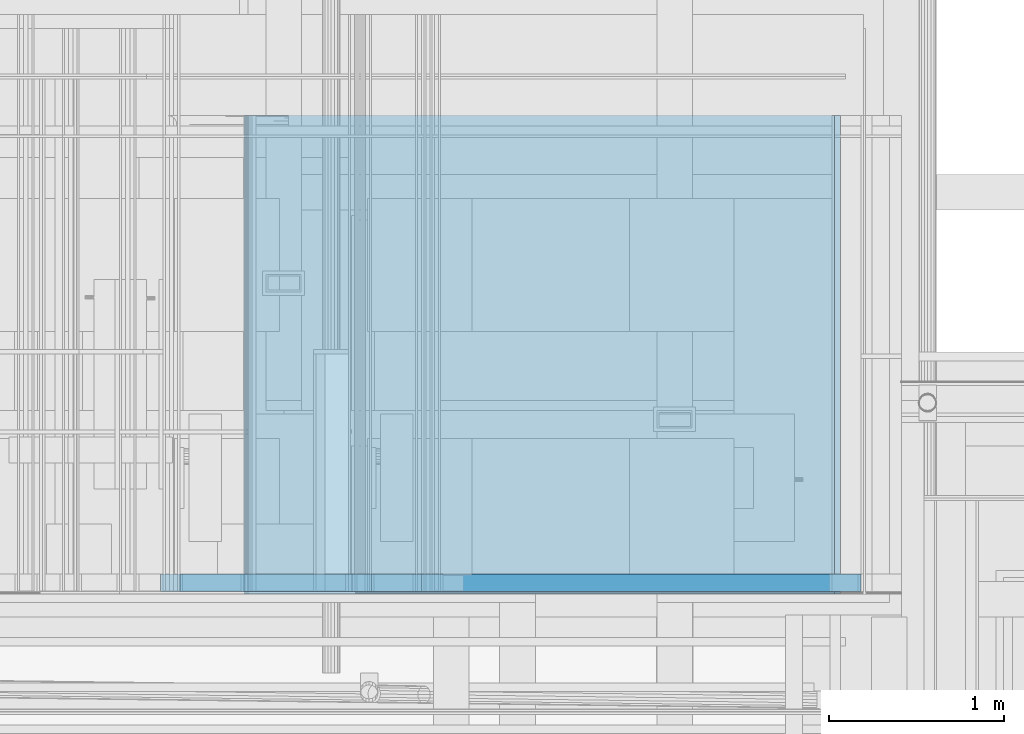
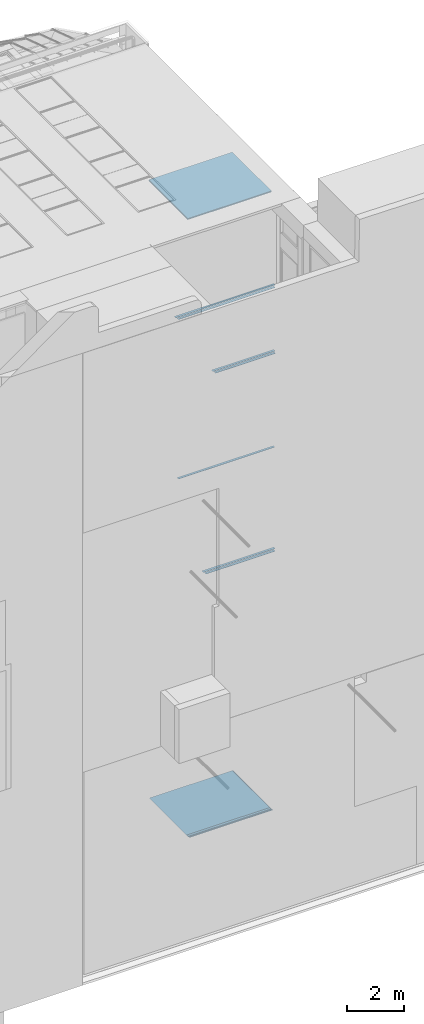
# One storey, part 53 of 583: 13 building element parts, 6 elements without a shape of their own.
"""IFC2X3 building model written with IfcOpenShell, lengths in metres."""

import ifcopenshell
import ifcopenshell.guid

model = None  # the IFC model being written
_history = None  # IfcOwnerHistory: only IFC2X3 demands one
_inside = {}  # id of a spatial element -> (the spatial element, [elements in it])
_under = {}  # id of a project, library or spatial element -> (it, [spatial elements below it])
_declared = {}  # id of a project -> (the project, [libraries it declares])
_typed = {}  # id of a type object -> (the type object, [elements of that type])
_made_of = {}  # id of a material, layer set ... -> (it, [elements and type objects made of it])


def new_model(schema):
    """Start an empty IFC model of exactly this schema.

    Asked for "IFC4X3", IfcOpenShell would pick the latest addendum, in which some entities
    have other attributes; the version numbers below select the first issue.
    IFC2X3 requires an IfcOwnerHistory on every rooted entity: one is made here for all.
    """
    global model, _history
    if schema == "IFC4X3":
        model = ifcopenshell.file(schema_version=(4, 3, 0, 0))
    else:
        model = ifcopenshell.file(schema=schema)
    _inside.clear()
    _under.clear()
    _declared.clear()
    _typed.clear()
    _made_of.clear()
    _history = None
    if model.schema == "IFC2X3":
        org = make("IfcOrganization", Name="unknown")
        user = make(
            "IfcPersonAndOrganization",
            ThePerson=make("IfcPerson", FamilyName="unknown"),
            TheOrganization=org,
        )
        app = make(
            "IfcApplication",
            ApplicationDeveloper=org,
            Version="unknown",
            ApplicationFullName="unknown",
            ApplicationIdentifier="unknown",
        )
        _history = make(
            "IfcOwnerHistory",
            OwningUser=user,
            OwningApplication=app,
            ChangeAction="ADDED",
            CreationDate=0,
        )
    return model


def make(cls, **values):
    """One entity of the class cls with the attributes given. An attribute that is None is left unset."""
    return model.create_entity(
        cls, **{name: value for name, value in values.items() if value is not None}
    )


def entity(cls, *values):
    """Any entity or typed value of the class cls, its attributes in the order of the schema. None: left unset."""
    e = model.create_entity(cls)
    for i, value in enumerate(values):
        if value is not None:
            e[i] = value
    return e


def rooted(cls, **values):
    """An entity with a GlobalId (a new one), such as an element, a storey or a relation."""
    return make(cls, GlobalId=ifcopenshell.guid.new(), OwnerHistory=_history, **values)


def si_unit(unit_type, name, prefix=None):
    """IfcSIUnit, for example si_unit("LENGTHUNIT", "METRE", prefix="MILLI")."""
    return make("IfcSIUnit", UnitType=unit_type, Prefix=prefix, Name=name)


def converted_unit(unit_type, name, factor, base, dimensions=None, offset=None):
    """IfcConversionBasedUnit, such as the inch: factor (a typed value) times the base unit."""
    return make(
        "IfcConversionBasedUnit"
        if offset is None
        else "IfcConversionBasedUnitWithOffset",
        ConversionOffset=offset,
        Dimensions=None
        if dimensions is None
        else entity("IfcDimensionalExponents", *dimensions),
        UnitType=unit_type,
        Name=name,
        ConversionFactor=make(
            "IfcMeasureWithUnit", ValueComponent=factor, UnitComponent=base
        ),
    )


def derived_unit(unit_type, elements):
    """IfcDerivedUnit: a product of units, each with its exponent."""
    return make(
        "IfcDerivedUnit",
        Elements=[
            make("IfcDerivedUnitElement", Unit=unit, Exponent=power)
            for unit, power in elements
        ],
        UnitType=unit_type,
    )


def money_unit(currency):
    """IfcMonetaryUnit."""
    return make("IfcMonetaryUnit", Currency=currency)


def assignment(units):
    """IfcUnitAssignment: the units of a project."""
    return None if units is None else make("IfcUnitAssignment", Units=units)


def point(xyz):
    """IfcCartesianPoint."""
    return None if xyz is None else make("IfcCartesianPoint", Coordinates=xyz)


def direction(xyz):
    """IfcDirection."""
    return None if xyz is None else make("IfcDirection", DirectionRatios=xyz)


def frame(location, z_axis=None, x_axis=None):
    """IfcAxis2Placement3D, a coordinate frame: its origin and axes. An axis left out is left unset."""
    return make(
        "IfcAxis2Placement3D",
        Location=point(location),
        Axis=direction(z_axis),
        RefDirection=direction(x_axis),
    )


def frame_2d(location, x_axis=None):
    """IfcAxis2Placement2D, a coordinate frame in the plane: its origin and x axis."""
    return make(
        "IfcAxis2Placement2D", Location=point(location), RefDirection=direction(x_axis)
    )


def origin_with_axes():
    """The frame at (0, 0, 0) with the z axis (0, 0, 1) and the x axis (1, 0, 0) written out."""
    return frame((0.0, 0.0, 0.0), z_axis=(0.0, 0.0, 1.0), x_axis=(1.0, 0.0, 0.0))


def place(relative_to, where):
    """IfcLocalPlacement: puts the frame where relative to a parent placement (None: the world)."""
    return make(
        "IfcLocalPlacement", PlacementRelTo=relative_to, RelativePlacement=where
    )


def context(
    kind, dimensions, precision=None, world=None, true_north=None, identifier=None
):
    """IfcGeometricRepresentationContext, for example the 3D "Model" context."""
    return make(
        "IfcGeometricRepresentationContext",
        ContextIdentifier=identifier,
        ContextType=kind,
        CoordinateSpaceDimension=dimensions,
        Precision=precision,
        WorldCoordinateSystem=world,
        TrueNorth=true_north,
    )


def subcontext(parent, identifier, kind, view, scale=None):
    """IfcGeometricRepresentationSubContext, for example "Body" below "Model"."""
    return make(
        "IfcGeometricRepresentationSubContext",
        ContextIdentifier=identifier,
        ContextType=kind,
        ParentContext=parent,
        TargetScale=scale,
        TargetView=view,
    )


def project(units=None, contexts=None):
    """IfcProject with its units and contexts."""
    return rooted(
        "IfcProject",
        Name="project",
        RepresentationContexts=contexts,
        UnitsInContext=assignment(units),
    )


def spatial(cls, under=None, at=None, **own):
    """A site, building, storey or space (cls), placed at a placement, below another one or the project."""
    s = rooted(cls, ObjectPlacement=at, **own)
    if under is not None:
        _under.setdefault(under.id(), (under, []))[1].append(s)
    return s


def polyline(points):
    """IfcPolyline through the points."""
    return make("IfcPolyline", Points=[point(p) for p in points])


def profile(cls, at=None, kind="AREA", **sizes):
    """A parametric profile (cls). Its sizes go by their IFC names, for example OverallWidth=200.0."""
    return make(cls, ProfileType=kind, Position=at, **sizes)


def rectangle(**sizes):
    """IfcRectangleProfileDef."""
    return profile("IfcRectangleProfileDef", **sizes)


def outline(outer, holes=None, kind="AREA"):
    """IfcArbitraryClosedProfileDef: a profile drawn as a closed curve; with holes, ...WithVoids."""
    if holes is None:
        return make("IfcArbitraryClosedProfileDef", ProfileType=kind, OuterCurve=outer)
    return make(
        "IfcArbitraryProfileDefWithVoids",
        ProfileType=kind,
        OuterCurve=outer,
        InnerCurves=holes,
    )


def extrude(swept, where, along, depth):
    """IfcExtrudedAreaSolid: the profile swept, set in the frame where, extruded along a direction by depth."""
    return make(
        "IfcExtrudedAreaSolid",
        SweptArea=swept,
        Position=where,
        ExtrudedDirection=direction(along),
        Depth=depth,
    )


def shape(context_of_items, identifier, shape_type, items):
    """IfcShapeRepresentation: the items that make up one representation, for example the "Body"."""
    return make(
        "IfcShapeRepresentation",
        ContextOfItems=context_of_items,
        RepresentationIdentifier=identifier,
        RepresentationType=shape_type,
        Items=items,
    )


def material(Name=None, Category=None):
    """IfcMaterial."""
    return make("IfcMaterial", Name=Name, Category=Category)


def made_of(thing, what):
    """Note that an element or type object is made of a material, layer set ...; save() writes the relation."""
    if what is not None:
        _made_of.setdefault(what.id(), (what, []))[1].append(thing)
    return thing


def type_object(cls, material=None, **own):
    """A type object (cls), such as IfcWallType, which elements share."""
    return made_of(rooted(cls, **own), material)


def element(
    cls,
    number,
    at=None,
    inside=None,
    cuts=None,
    type_object=None,
    material=None,
    context=None,
    identifier="Body",
    shape_type=None,
    held_by="IfcProductDefinitionShape",
    body=None,
    shapes=None,
    **own,
):
    """One element of the class cls, such as IfcWall. Its Tag is "e" and its number.

    at: its placement. inside: the storey or other place that contains it. cuts: it is an
    opening in that element (IfcRelVoidsElement). A single representation is given by context,
    identifier, shape_type and body (its items); several are given by shapes. held_by: the class
    of the entity that holds the representations. save() writes the other relations.
    """
    e = rooted(cls, Tag="e%d" % number, ObjectPlacement=at, **own)
    if body is not None:
        shapes = [shape(context, identifier, shape_type, body)]
    if shapes is not None:
        e.Representation = make(held_by, Representations=shapes)
    if inside is not None:
        _inside.setdefault(inside.id(), (inside, []))[1].append(e)
    if cuts is not None:
        rooted(
            "IfcRelVoidsElement", RelatingBuildingElement=cuts, RelatedOpeningElement=e
        )
    if type_object is not None:
        _typed.setdefault(type_object.id(), (type_object, []))[1].append(e)
    return made_of(e, material)


def aggregate(whole, parts):
    """IfcRelAggregates: a whole, such as a stair, and the parts it consists of."""
    return rooted("IfcRelAggregates", RelatingObject=whole, RelatedObjects=parts)


def save(model, path):
    """Write the relations noted so far, then the file.

    IfcRelAggregates (storeys below a building ...), IfcRelContainedInSpatialStructure (elements
    in a storey), IfcRelDefinesByType, IfcRelAssociatesMaterial and IfcRelDeclares: one each for
    every whole, place, type object, material and project.
    """
    for whole, parts in _under.values():
        aggregate(whole, parts)
    for where, things in _inside.values():
        rooted(
            "IfcRelContainedInSpatialStructure",
            RelatedElements=things,
            RelatingStructure=where,
        )
    for kind, things in _typed.values():
        rooted("IfcRelDefinesByType", RelatedObjects=things, RelatingType=kind)
    for what, things in _made_of.values():
        rooted("IfcRelAssociatesMaterial", RelatedObjects=things, RelatingMaterial=what)
    for by, libraries in _declared.values():
        rooted("IfcRelDeclares", RelatingContext=by, RelatedDefinitions=libraries)
    model.write(path)


model = new_model("IFC2X3")

# Units and contexts
model_context = context("Model", 3, precision=1e-05, world=origin_with_axes(), true_north=direction((0.0, 1.0)))
body_context = subcontext(model_context, "Body", "Model", "MODEL_VIEW", scale=1.0)
ifc_project = project(units=[si_unit("LENGTHUNIT", "METRE"), si_unit("AREAUNIT", "SQUARE_METRE"), si_unit("VOLUMEUNIT", "CUBIC_METRE"), si_unit("ABSORBEDDOSEUNIT", "GRAY"), si_unit("AMOUNTOFSUBSTANCEUNIT", "MOLE"), si_unit("DOSEEQUIVALENTUNIT", "SIEVERT"), si_unit("ELECTRICCAPACITANCEUNIT", "FARAD"), si_unit("ELECTRICCHARGEUNIT", "COULOMB"), si_unit("ELECTRICCONDUCTANCEUNIT", "SIEMENS"), si_unit("ELECTRICCURRENTUNIT", "AMPERE"), si_unit("ELECTRICRESISTANCEUNIT", "OHM"), si_unit("ELECTRICVOLTAGEUNIT", "VOLT"), si_unit("ENERGYUNIT", "JOULE"), si_unit("FORCEUNIT", "NEWTON"), si_unit("FREQUENCYUNIT", "HERTZ"), si_unit("ILLUMINANCEUNIT", "LUX"), si_unit("INDUCTANCEUNIT", "HENRY"), si_unit("LUMINOUSFLUXUNIT", "LUMEN"), si_unit("LUMINOUSINTENSITYUNIT", "CANDELA"), si_unit("MAGNETICFLUXDENSITYUNIT", "TESLA"), si_unit("MAGNETICFLUXUNIT", "WEBER"), si_unit("MASSUNIT", "GRAM"), converted_unit("PLANEANGLEUNIT", "degree", entity("IfcReal", 0.0174532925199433), si_unit("PLANEANGLEUNIT", "RADIAN"), dimensions=[0, 0, 0, 0, 0, 0, 0]), si_unit("POWERUNIT", "WATT"), si_unit("PRESSUREUNIT", "PASCAL"), si_unit("RADIOACTIVITYUNIT", "BECQUEREL"), si_unit("SOLIDANGLEUNIT", "STERADIAN"), si_unit("THERMODYNAMICTEMPERATUREUNIT", "KELVIN"), si_unit("TIMEUNIT", "SECOND"), derived_unit("ACCELERATIONUNIT", [(si_unit("LENGTHUNIT", "METRE"), 1), (si_unit("TIMEUNIT", "SECOND"), -2)]), derived_unit("ANGULARVELOCITYUNIT", [(converted_unit("PLANEANGLEUNIT", "degree", entity("IfcReal", 0.0174532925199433), si_unit("PLANEANGLEUNIT", "RADIAN"), dimensions=[0, 0, 0, 0, 0, 0, 0]), 1), (si_unit("TIMEUNIT", "SECOND"), -1)]), derived_unit("CURVATUREUNIT", [(converted_unit("PLANEANGLEUNIT", "degree", entity("IfcReal", 0.0174532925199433), si_unit("PLANEANGLEUNIT", "RADIAN"), dimensions=[0, 0, 0, 0, 0, 0, 0]), 1), (si_unit("LENGTHUNIT", "METRE"), -1)]), derived_unit("DYNAMICVISCOSITYUNIT", [(si_unit("PRESSUREUNIT", "PASCAL"), 1), (si_unit("TIMEUNIT", "SECOND"), 1)]), derived_unit("HEATFLUXDENSITYUNIT", [(si_unit("POWERUNIT", "WATT"), 1), (si_unit("LENGTHUNIT", "METRE"), -2)]), derived_unit("HEATINGVALUEUNIT", [(si_unit("ENERGYUNIT", "JOULE"), 1), (si_unit("MASSUNIT", "GRAM"), -1)]), derived_unit("INTEGERCOUNTRATEUNIT", [(si_unit("TIMEUNIT", "SECOND"), -1)]), derived_unit("IONCONCENTRATIONUNIT", [(si_unit("MASSUNIT", "GRAM"), 1), (si_unit("VOLUMEUNIT", "CUBIC_METRE"), -1)]), derived_unit("ISOTHERMALMOISTURECAPACITYUNIT", [(si_unit("VOLUMEUNIT", "CUBIC_METRE"), 1), (si_unit("MASSUNIT", "GRAM"), -1)]), derived_unit("KINEMATICVISCOSITYUNIT", [(si_unit("AREAUNIT", "SQUARE_METRE"), 1), (si_unit("TIMEUNIT", "SECOND"), -1)]), derived_unit("LINEARFORCEUNIT", [(si_unit("FORCEUNIT", "NEWTON"), 1), (si_unit("LENGTHUNIT", "METRE"), -1)]), derived_unit("LINEARMOMENTUNIT", [(si_unit("FORCEUNIT", "NEWTON"), 1), (si_unit("LENGTHUNIT", "METRE"), -1)]), derived_unit("LINEARSTIFFNESSUNIT", [(si_unit("FORCEUNIT", "NEWTON"), 1), (si_unit("LENGTHUNIT", "METRE"), -1)]), derived_unit("LINEARVELOCITYUNIT", [(si_unit("LENGTHUNIT", "METRE"), 1), (si_unit("TIMEUNIT", "SECOND"), -1)]), derived_unit("LUMINOUSINTENSITYDISTRIBUTIONUNIT", [(si_unit("LUMINOUSINTENSITYUNIT", "CANDELA"), 1), (si_unit("LUMINOUSFLUXUNIT", "LUMEN"), -1)]), derived_unit("MASSDENSITYUNIT", [(si_unit("MASSUNIT", "GRAM"), 1), (si_unit("VOLUMEUNIT", "CUBIC_METRE"), -1)]), derived_unit("MASSFLOWRATEUNIT", [(si_unit("MASSUNIT", "GRAM"), 1), (si_unit("TIMEUNIT", "SECOND"), -1)]), derived_unit("MASSPERLENGTHUNIT", [(si_unit("MASSUNIT", "GRAM"), 1), (si_unit("LENGTHUNIT", "METRE"), -1)]), derived_unit("MODULUSOFELASTICITYUNIT", [(si_unit("FORCEUNIT", "NEWTON"), 1), (si_unit("AREAUNIT", "SQUARE_METRE"), -1)]), derived_unit("MODULUSOFLINEARSUBGRADEREACTIONUNIT", [(si_unit("FORCEUNIT", "NEWTON"), 1), (si_unit("LENGTHUNIT", "METRE"), -2)]), derived_unit("MODULUSOFROTATIONALSUBGRADEREACTIONUNIT", [(si_unit("FORCEUNIT", "NEWTON"), 1), (si_unit("LENGTHUNIT", "METRE"), 1)]), derived_unit("MODULUSOFSUBGRADEREACTIONUNIT", [(si_unit("FORCEUNIT", "NEWTON"), 1), (si_unit("VOLUMEUNIT", "CUBIC_METRE"), -1)]), derived_unit("MOISTUREDIFFUSIVITYUNIT", [(si_unit("VOLUMEUNIT", "CUBIC_METRE"), 1), (si_unit("TIMEUNIT", "SECOND"), -1)]), derived_unit("MOLECULARWEIGHTUNIT", [(si_unit("MASSUNIT", "GRAM"), 1), (si_unit("AMOUNTOFSUBSTANCEUNIT", "MOLE"), -1)]), derived_unit("PLANARFORCEUNIT", [(si_unit("FORCEUNIT", "NEWTON"), 1), (si_unit("LENGTHUNIT", "METRE"), -2)]), derived_unit("ROTATIONALFREQUENCYUNIT", [(si_unit("TIMEUNIT", "SECOND"), -1)]), derived_unit("ROTATIONALMASSUNIT", [(si_unit("MASSUNIT", "GRAM"), 1), (si_unit("LENGTHUNIT", "METRE"), 2)]), derived_unit("ROTATIONALSTIFFNESSUNIT", [(si_unit("FORCEUNIT", "NEWTON"), 1), (si_unit("LENGTHUNIT", "METRE"), 1), (converted_unit("PLANEANGLEUNIT", "degree", entity("IfcReal", 0.0174532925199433), si_unit("PLANEANGLEUNIT", "RADIAN"), dimensions=[0, 0, 0, 0, 0, 0, 0]), -1)]), derived_unit("SECTIONAREAINTEGRALUNIT", [(si_unit("LENGTHUNIT", "METRE"), 5)]), derived_unit("SECTIONMODULUSUNIT", [(si_unit("LENGTHUNIT", "METRE"), 3)]), derived_unit("SHEARMODULUSUNIT", [(si_unit("FORCEUNIT", "NEWTON"), 1), (si_unit("AREAUNIT", "SQUARE_METRE"), -1)]), derived_unit("SOUNDPOWERUNIT", [(si_unit("ENERGYUNIT", "JOULE"), 1), (si_unit("TIMEUNIT", "SECOND"), -1)]), derived_unit("SPECIFICHEATCAPACITYUNIT", [(si_unit("FORCEUNIT", "NEWTON"), 1), (si_unit("MASSUNIT", "GRAM"), -1), (si_unit("THERMODYNAMICTEMPERATUREUNIT", "KELVIN"), -1)]), derived_unit("TEMPERATUREGRADIENTUNIT", [(si_unit("THERMODYNAMICTEMPERATUREUNIT", "KELVIN"), 1), (si_unit("LENGTHUNIT", "METRE"), -1)]), derived_unit("THERMALADMITTANCEUNIT", [(si_unit("POWERUNIT", "WATT"), 1), (si_unit("AREAUNIT", "SQUARE_METRE"), -1), (si_unit("THERMODYNAMICTEMPERATUREUNIT", "KELVIN"), -1)]), derived_unit("THERMALCONDUCTANCEUNIT", [(si_unit("POWERUNIT", "WATT"), 1), (si_unit("LENGTHUNIT", "METRE"), -1), (si_unit("THERMODYNAMICTEMPERATUREUNIT", "KELVIN"), -1)]), derived_unit("THERMALEXPANSIONCOEFFICIENTUNIT", [(si_unit("THERMODYNAMICTEMPERATUREUNIT", "KELVIN"), -1)]), derived_unit("THERMALRESISTANCEUNIT", [(si_unit("AREAUNIT", "SQUARE_METRE"), 1), (si_unit("POWERUNIT", "WATT"), -1)]), derived_unit("THERMALTRANSMITTANCEUNIT", [(si_unit("POWERUNIT", "WATT"), 1), (si_unit("AREAUNIT", "SQUARE_METRE"), -1), (si_unit("THERMODYNAMICTEMPERATUREUNIT", "KELVIN"), -1)]), derived_unit("TORQUEUNIT", [(si_unit("FORCEUNIT", "NEWTON"), 1), (si_unit("LENGTHUNIT", "METRE"), 1)]), derived_unit("VAPORPERMEABILITYUNIT", [(si_unit("MASSUNIT", "GRAM"), 1), (si_unit("TIMEUNIT", "SECOND"), -1)]), derived_unit("VOLUMETRICFLOWRATEUNIT", [(si_unit("VOLUMEUNIT", "CUBIC_METRE"), 1), (si_unit("TIMEUNIT", "SECOND"), -1)]), derived_unit("WARPINGCONSTANTUNIT", [(si_unit("LENGTHUNIT", "METRE"), 6)]), derived_unit("WARPINGMOMENTUNIT", [(si_unit("FORCEUNIT", "NEWTON"), 1), (si_unit("LENGTHUNIT", "METRE"), 2)]), money_unit("GBP")], contexts=[model_context])

# Site, building, storey
site_placement = place(None, origin_with_axes())
site = spatial("IfcSite", under=ifc_project, at=site_placement, Name="Site", CompositionType="ELEMENT")
building_placement = place(site_placement, origin_with_axes())
building = spatial("IfcBuilding", under=site, at=building_placement, Name="Building01", CompositionType="ELEMENT")
storey_placement = place(building_placement, frame((0.0, 0.0, 20.78), z_axis=(0.0, 0.0, 1.0), x_axis=(1.0, 0.0, 0.0)))
storey = spatial("IfcBuildingStorey", under=building, at=storey_placement, Name="RL", CompositionType="ELEMENT", Elevation=20.78)

# Wall, building element parts
wall_type_1 = type_object("IfcWallType", Name="SHE_A-Walls_Type05a_Partition_95mm_tall", PredefinedType="NOTDEFINED")
wall_1_placement = place(storey_placement, frame((12.099378, 5.15, -1.005), z_axis=(0.0, 1.0, 0.0), x_axis=(1.0, 0.0, 0.0)))
wall_1 = element("IfcWall", 1, at=wall_1_placement, inside=storey, type_object=wall_type_1, Name="5A", ObjectType="SHE_A-Walls_Type05a_Partition_95mm_tall")
ifc_material_1 = material(Name="A_BSUK_Walls_Timber")
placement_1 = place(wall_1_placement, origin_with_axes())
building_element_part_1 = element("IfcBuildingElementPart", 2, at=placement_1, material=ifc_material_1, Name="2", context=body_context, shape_type="SweptSolid", body=[
    extrude(outline(polyline([(2.482622, 0.075), (0.075, 0.075), (0.06, 0.06), (2.482622, 0.06), (2.482622, 0.075)])), frame((0.0, 0.0, 0.015), z_axis=(0.0, 0.0, 1.0), x_axis=(1.0, 0.0, 0.0)), (0.0, 0.0, 1.0), 0.1),
])
building_element_part_2 = element("IfcBuildingElementPart", 3, at=placement_1, material=ifc_material_1, Name="3", context=body_context, shape_type="SweptSolid", body=[
    extrude(outline(polyline([(2.467622, -0.035), (-0.035, -0.035), (-0.05, -0.05), (2.467622, -0.05), (2.467622, -0.035)])), frame((0.0, 0.0, 0.015), z_axis=(0.0, 0.0, 1.0), x_axis=(1.0, 0.0, 0.0)), (0.0, 0.0, 1.0), 0.1),
])
aggregate(wall_1, [building_element_part_1, building_element_part_2])

wall_2_placement = place(storey_placement, frame((10.605, 5.15, 1.81), z_axis=(0.0, 1.0, 0.0), x_axis=(1.0, 0.0, 0.0)))
wall_2 = element("IfcWall", 4, at=wall_2_placement, inside=storey, type_object=wall_type_1, Name="5A", ObjectType="SHE_A-Walls_Type05a_Partition_95mm_tall")
placement_2 = place(wall_2_placement, origin_with_axes())
building_element_part_3 = element("IfcBuildingElementPart", 5, at=placement_2, material=ifc_material_1, Name="2", context=body_context, shape_type="SweptSolid", body=[
    extrude(outline(polyline([(3.962, 0.075), (0.075, 0.075), (0.06, 0.06), (3.962, 0.06), (3.962, 0.075)])), frame((0.0, 0.0, 0.015), z_axis=(0.0, 0.0, 1.0), x_axis=(1.0, 0.0, 0.0)), (0.0, 0.0, 1.0), 0.1),
])
building_element_part_4 = element("IfcBuildingElementPart", 6, at=placement_2, material=ifc_material_1, Name="3", context=body_context, shape_type="SweptSolid", body=[
    extrude(outline(polyline([(3.962, -0.035), (-0.035, -0.035), (-0.05, -0.05), (3.962, -0.05), (3.962, -0.035)])), frame((0.0, 0.0, 0.015), z_axis=(0.0, 0.0, 1.0), x_axis=(1.0, 0.0, 0.0)), (0.0, 0.0, 1.0), 0.1),
])
aggregate(wall_2, [building_element_part_3, building_element_part_4])

# Wall, building element part
wall_type_2 = type_object("IfcWallType", Name="SHE_A-Walls_Type01c_Partywall_225mm_twin_tall", PredefinedType="NOTDEFINED")
wall_3_placement = place(storey_placement, frame((8.82, 5.15, -5.159868), z_axis=(0.0, 1.0, 0.0), x_axis=(1.0, 0.0, 0.0)))
wall_3 = element("IfcWall", 7, at=wall_3_placement, inside=storey, type_object=wall_type_2, Name="1C", ObjectType="SHE_A-Walls_Type01c_Partywall_225mm_twin_tall")
building_element_part_5_placement = place(wall_3_placement, origin_with_axes())
building_element_part_5 = element("IfcBuildingElementPart", 8, at=building_element_part_5_placement, material=ifc_material_1, Name="8", context=body_context, shape_type="SweptSolid", body=[
    extrude(rectangle(XDim=3.887, YDim=0.015, at=frame_2d((3.7885, -0.0955), x_axis=(-1.0, 0.0))), frame((0.0, 0.0, 0.015), z_axis=(0.0, 0.0, 1.0), x_axis=(1.0, 0.0, 0.0)), (0.0, 0.0, 1.0), 0.1),
])
aggregate(wall_3, [building_element_part_5])

# Wall, building element parts
wall_4_placement = place(storey_placement, frame((11.728124, 5.15, -9.44), z_axis=(0.0, 1.0, 0.0), x_axis=(1.0, 0.0, 0.0)))
wall_4 = element("IfcWall", 9, at=wall_4_placement, inside=storey, type_object=wall_type_1, Name="5A", ObjectType="SHE_A-Walls_Type05a_Partition_95mm_tall")
placement_3 = place(wall_4_placement, origin_with_axes())
building_element_part_6 = element("IfcBuildingElementPart", 10, at=placement_3, material=ifc_material_1, Name="2", context=body_context, shape_type="SweptSolid", body=[
    extrude(outline(polyline([(2.838876, 0.075), (0.05, 0.075), (0.035, 0.06), (2.838876, 0.06), (2.838876, 0.075)])), frame((0.0, 0.0, 0.015), z_axis=(0.0, 0.0, 1.0), x_axis=(1.0, 0.0, 0.0)), (0.0, 0.0, 1.0), 0.1),
])
building_element_part_7 = element("IfcBuildingElementPart", 11, at=placement_3, material=ifc_material_1, Name="3", context=body_context, shape_type="SweptSolid", body=[
    extrude(outline(polyline([(2.838876, -0.035), (-0.06, -0.035), (-0.075, -0.05), (2.838876, -0.05), (2.838876, -0.035)])), frame((0.0, 0.0, 0.015), z_axis=(0.0, 0.0, 1.0), x_axis=(1.0, 0.0, 0.0)), (0.0, 0.0, 1.0), 0.1),
])
aggregate(wall_4, [building_element_part_6, building_element_part_7])

wall_type_3 = type_object("IfcWallType", Name="SHE_A-Walls_Type06d_ExternalWallInsulation_48mm", PredefinedType="NOTDEFINED")
wall_5_placement = place(storey_placement, frame((11.04418, 5.15, 5.93), z_axis=(0.0, 1.0, 0.0), x_axis=(1.0, 0.0, 0.0)))
wall_5 = element("IfcWall", 12, at=wall_5_placement, inside=storey, type_object=wall_type_3, Name="6D", ObjectType="SHE_A-Walls_Type06d_ExternalWallInsulation_48mm")
ifc_material_2 = material(Name="A_BSUK_Insulation")
placement_4 = place(wall_5_placement, origin_with_axes())
building_element_part_8 = element("IfcBuildingElementPart", 13, at=placement_4, material=ifc_material_2, Name="1", context=body_context, shape_type="SweptSolid", body=[
    extrude(rectangle(XDim=3.36982, YDim=0.036, at=frame_2d((1.68491, 0.018), x_axis=(-1.0, 0.0))), origin_with_axes(), (0.0, 0.0, 1.0), 2.74),
])
building_element_part_9 = element("IfcBuildingElementPart", 14, at=placement_4, material=ifc_material_1, Name="2", context=body_context, shape_type="SweptSolid", body=[
    extrude(outline(polyline([(3.35782, 0.063), (-0.012, 0.063), (-0.012, 0.048), (3.37282, 0.048), (3.35782, 0.063)])), frame((0.0, 0.0, 0.015), z_axis=(0.0, 0.0, 1.0), x_axis=(1.0, 0.0, 0.0)), (0.0, 0.0, 1.0), 0.1),
])
ifc_material_3 = material(Name="A_BSUK_WallInternal_Finishes_Plasterboard")
building_element_part_10 = element("IfcBuildingElementPart", 15, at=placement_4, material=ifc_material_3, Name="3", context=body_context, shape_type="SweptSolid", body=[
    extrude(outline(polyline([(3.35782, 0.048), (-0.012, 0.048), (0.001, 0.035), (3.35782, 0.035), (3.35782, 0.048)])), origin_with_axes(), (0.0, 0.0, 1.0), 2.74),
])
aggregate(wall_5, [building_element_part_8, building_element_part_9, building_element_part_10])

wall_6_placement = place(storey_placement, frame((14.45, 5.15, -20.51), z_axis=(0.0, 1.0, 0.0), x_axis=(-1.0, 0.0, 0.0)))
wall_6 = element("IfcWall", 16, at=wall_6_placement, inside=storey, type_object=wall_type_3, Name="6D", ObjectType="SHE_A-Walls_Type06d_ExternalWallInsulation_48mm")
placement_5 = place(wall_6_placement, origin_with_axes())
building_element_part_11 = element("IfcBuildingElementPart", 17, at=placement_5, material=ifc_material_2, Name="1", context=body_context, shape_type="SweptSolid", body=[
    extrude(rectangle(XDim=3.347, YDim=0.036, at=frame_2d((1.6735, 0.018), x_axis=(-1.0, 0.0))), origin_with_axes(), (0.0, 0.0, 1.0), 2.74),
])
building_element_part_12 = element("IfcBuildingElementPart", 18, at=placement_5, material=ifc_material_1, Name="2", context=body_context, shape_type="SweptSolid", body=[
    extrude(rectangle(XDim=3.332, YDim=0.015, at=frame_2d((1.729, 0.0555), x_axis=(-1.0, 0.0))), frame((0.0, 0.0, 0.015), z_axis=(0.0, 0.0, 1.0), x_axis=(1.0, 0.0, 0.0)), (0.0, 0.0, 1.0), 0.1),
])
building_element_part_13 = element("IfcBuildingElementPart", 19, at=placement_5, material=ifc_material_3, Name="3", context=body_context, shape_type="SweptSolid", body=[
    extrude(outline(polyline([(3.395, 0.048), (0.035, 0.048), (0.035, 0.035), (3.382, 0.035), (3.395, 0.048)])), origin_with_axes(), (0.0, 0.0, 1.0), 2.74),
])
aggregate(wall_6, [building_element_part_11, building_element_part_12, building_element_part_13])

save(model, "model.ifc")
